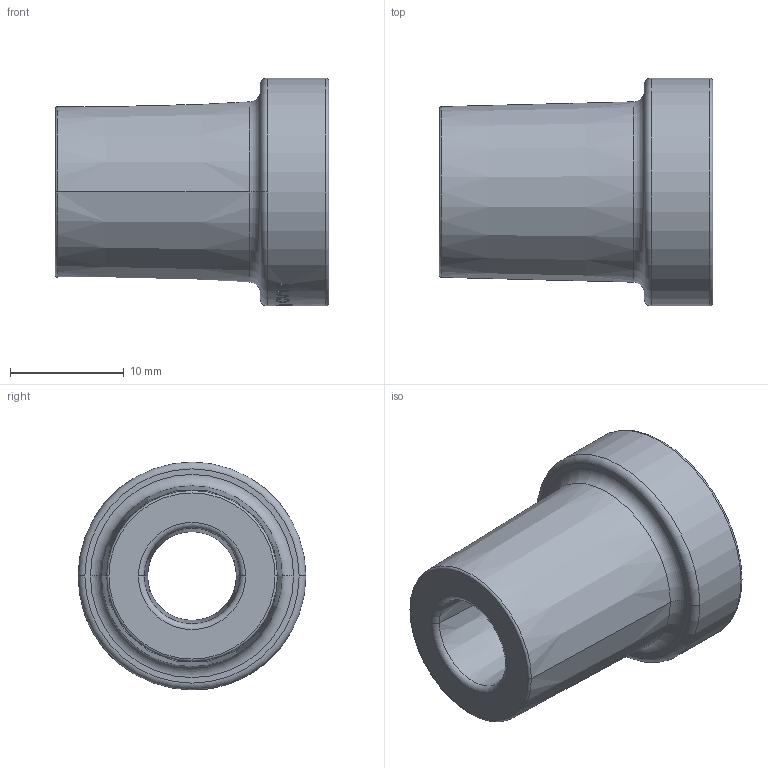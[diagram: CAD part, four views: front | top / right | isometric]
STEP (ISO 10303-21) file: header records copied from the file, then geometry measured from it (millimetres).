
FILE_DESCRIPTION(/* description */ (''),/* implementation_level */ '2;1');
FILE_NAME(/* name */ 'ISO 5356 M15 F8,5_GgCV19.stp',/* time_stamp */ '2020-03-27T12:57:03+01:00',/* author */ (''),/* organization */ (''),/* preprocessor_version */ 'ST-DEVELOPER v16.7',/* originating_system */ 'SIEMENS PLM Software NX 12.0',/* authorisation */ '');
FILE_SCHEMA (('AUTOMOTIVE_DESIGN { 1 0 10303 214 3 1 1 1 }'));
Length unit declared in the file: millimetre
Products named in the file (1): ISO5356 - copia (2)
Bounding box: 24 x 20 x 20 mm (x, y, z)
Volume: 3504.3 mm3; surface area: 2333.9 mm2
Topology: 1 solids, 1 shells, 140 faces, 359 edges, 239 vertices
Faces by surface type: plane 83, extrusion 32, torus 11, cylinder 8, cone 6
Full cylindrical faces by diameter (mm): 14.576 x1, 20 x1
Entity records: 5555 total; most frequent: CARTESIAN_POINT 2469, ORIENTED_EDGE 710, DIRECTION 458, EDGE_CURVE 355, VERTEX_POINT 239, B_SPLINE_CURVE_WITH_KNOTS 227, EDGE_LOOP 164, AXIS2_PLACEMENT_3D 157
